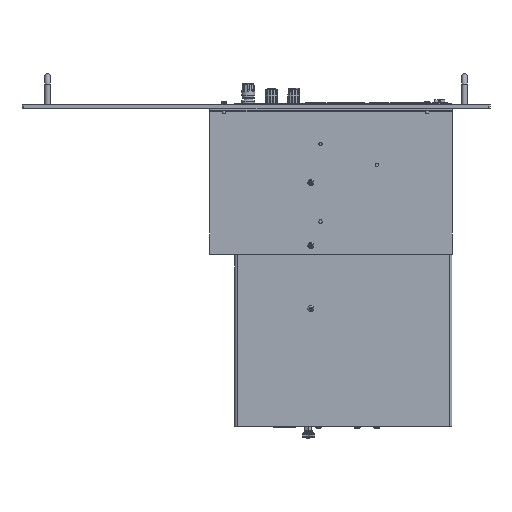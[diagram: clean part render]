
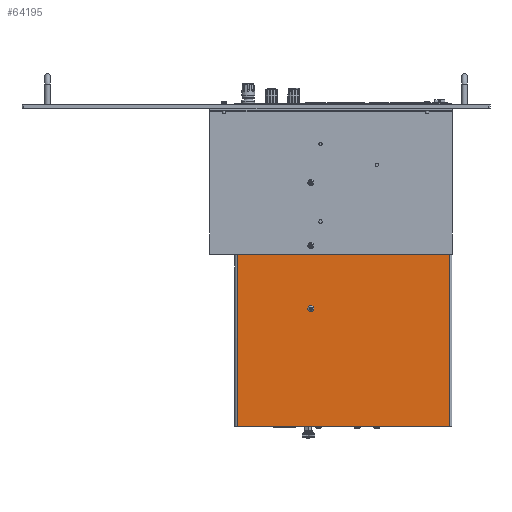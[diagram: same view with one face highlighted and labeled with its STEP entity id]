
A CAD part, front view. The second image highlights one B-rep face of the part: STEP entity #64195.
In plain terms, the highlighted planar face has unit normal (0, -1, 0).
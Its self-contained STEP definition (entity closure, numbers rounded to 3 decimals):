
#1716=FACE_BOUND('',#19368,.T.);
#2839=LINE('',#90597,#7695);
#2848=LINE('',#90630,#7704);
#2849=LINE('',#90632,#7705);
#2850=LINE('',#90633,#7706);
#7695=VECTOR('',#73866,10.);
#7704=VECTOR('',#73899,10.);
#7705=VECTOR('',#73900,10.);
#7706=VECTOR('',#73901,10.);
#12549=PLANE('',#67934);
#15678=FACE_OUTER_BOUND('',#19367,.T.);
#19367=EDGE_LOOP('',(#41659,#41660,#41661,#41662));
#19368=EDGE_LOOP('',(#41663));
#23572=CIRCLE('',#67935,3.);
#26215=VERTEX_POINT('',#90594);
#26216=VERTEX_POINT('',#90596);
#26228=VERTEX_POINT('',#90629);
#26229=VERTEX_POINT('',#90631);
#26230=VERTEX_POINT('',#90634);
#32255=EDGE_CURVE('',#26216,#26215,#2839,.T.);
#32270=EDGE_CURVE('',#26228,#26216,#2848,.T.);
#32271=EDGE_CURVE('',#26215,#26229,#2849,.T.);
#32272=EDGE_CURVE('',#26229,#26228,#2850,.T.);
#32273=EDGE_CURVE('',#26230,#26230,#23572,.T.);
#41659=ORIENTED_EDGE('',*,*,#32270,.T.);
#41660=ORIENTED_EDGE('',*,*,#32255,.T.);
#41661=ORIENTED_EDGE('',*,*,#32271,.T.);
#41662=ORIENTED_EDGE('',*,*,#32272,.T.);
#41663=ORIENTED_EDGE('',*,*,#32273,.T.);
#64195=ADVANCED_FACE('',(#15678,#1716),#12549,.F.);
#67934=AXIS2_PLACEMENT_3D('',#90628,#73897,#73898);
#67935=AXIS2_PLACEMENT_3D('',#90635,#73902,#73903);
#73866=DIRECTION('',(0.,0.,-1.));
#73897=DIRECTION('center_axis',(0.,1.,0.));
#73898=DIRECTION('ref_axis',(0.,0.,
1.));
#73899=DIRECTION('',(-1.,0.,0.));
#73900=DIRECTION('',(1.,0.,0.));
#73901=DIRECTION('',(0.,0.,1.));
#73902=DIRECTION('center_axis',(0.,1.,0.));
#73903=DIRECTION('ref_axis',(0.,0.,
-1.));
#90594=CARTESIAN_POINT('',(-19.,-26.55,-327.75));
#90596=CARTESIAN_POINT('',(-19.,-26.55,-150.));
#90597=CARTESIAN_POINT('',(-19.,-26.55,-78.));
#90628=CARTESIAN_POINT('Origin',(90.,-26.55,-161.25));
#90629=CARTESIAN_POINT('',(199.,-26.55,-150.));
#90630=CARTESIAN_POINT('',(202.5,-26.55,-150.));
#90631=CARTESIAN_POINT('',(199.,-26.55,-327.75));
#90632=CARTESIAN_POINT('',(-22.,-26.55,-327.75));
#90633=CARTESIAN_POINT('',(199.,-26.55,-244.5));
#90634=CARTESIAN_POINT('',(56.5,-26.55,-203.25));
#90635=CARTESIAN_POINT('Origin',(56.5,-26.55,-206.25));
